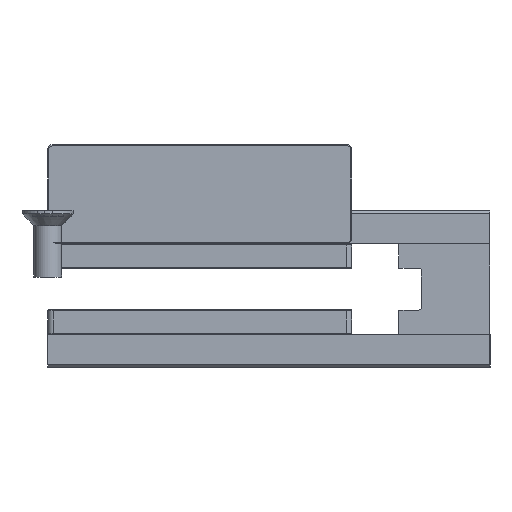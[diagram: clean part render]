
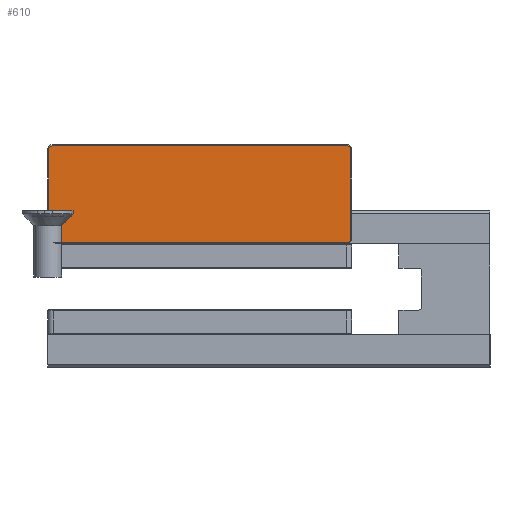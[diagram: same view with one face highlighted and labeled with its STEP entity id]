
A CAD part, front view. The second image highlights one B-rep face of the part: STEP entity #610.
In plain terms, the highlighted planar face has unit normal (0, -1, 0).
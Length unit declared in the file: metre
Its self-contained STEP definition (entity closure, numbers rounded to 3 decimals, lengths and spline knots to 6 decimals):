
#610 = ADVANCED_FACE( '', ( #835 ), #836, .T. );
#835 = FACE_OUTER_BOUND( '', #1570, .T. );
#836 = PLANE( '', #1571 );
#1570 = EDGE_LOOP( '', ( #2310, #2311, #2312, #2313, #2314, #2315, #2316, #2317 ) );
#1571 = AXIS2_PLACEMENT_3D( '', #2318, #2319, #2320 );
#2310 = ORIENTED_EDGE( '', *, *, #3898, .T. );
#2311 = ORIENTED_EDGE( '', *, *, #3899, .T. );
#2312 = ORIENTED_EDGE( '', *, *, #3900, .T. );
#2313 = ORIENTED_EDGE( '', *, *, #3901, .T. );
#2314 = ORIENTED_EDGE( '', *, *, #3902, .T. );
#2315 = ORIENTED_EDGE( '', *, *, #3903, .T. );
#2316 = ORIENTED_EDGE( '', *, *, #3904, .T. );
#2317 = ORIENTED_EDGE( '', *, *, #3905, .T. );
#2318 = CARTESIAN_POINT( '', ( 0.001, 0., 0.001 ) );
#2319 = DIRECTION( '', ( 0., -1., 0. ) );
#2320 = DIRECTION( '', ( 0., 0., -1. ) );
#3898 = EDGE_CURVE( '', #4363, #4364, #4365, .T. );
#3899 = EDGE_CURVE( '', #4364, #4366, #4367, .T. );
#3900 = EDGE_CURVE( '', #4366, #4368, #4369, .T. );
#3901 = EDGE_CURVE( '', #4368, #4370, #4371, .T. );
#3902 = EDGE_CURVE( '', #4370, #4372, #4373, .T. );
#3903 = EDGE_CURVE( '', #4372, #4374, #4375, .T. );
#3904 = EDGE_CURVE( '', #4374, #4376, #4377, .T. );
#3905 = EDGE_CURVE( '', #4376, #4363, #4378, .T. );
#4363 = VERTEX_POINT( '', #5197 );
#4364 = VERTEX_POINT( '', #5198 );
#4365 = CIRCLE( '', #5199, 0.0008 );
#4366 = VERTEX_POINT( '', #5200 );
#4367 = LINE( '', #5201, #5202 );
#4368 = VERTEX_POINT( '', #5203 );
#4369 = CIRCLE( '', #5204, 0.0008 );
#4370 = VERTEX_POINT( '', #5205 );
#4371 = LINE( '', #5206, #5207 );
#4372 = VERTEX_POINT( '', #5208 );
#4373 = CIRCLE( '', #5209, 0.0008 );
#4374 = VERTEX_POINT( '', #5210 );
#4375 = LINE( '', #5211, #5212 );
#4376 = VERTEX_POINT( '', #5213 );
#4377 = CIRCLE( '', #5214, 0.0008 );
#4378 = LINE( '', #5215, #5216 );
#5197 = CARTESIAN_POINT( '', ( 0.0548, 0., 0.017 ) );
#5198 = CARTESIAN_POINT( '', ( 0.054, 0., 0.0178 ) );
#5199 = AXIS2_PLACEMENT_3D( '', #6351, #6352, #6353 );
#5200 = CARTESIAN_POINT( '', ( 0.001, 0., 0.0178 ) );
#5201 = CARTESIAN_POINT( '', ( 0.001, 0., 0.0178 ) );
#5202 = VECTOR( '', #6354, 1. );
#5203 = CARTESIAN_POINT( '', ( 0.0002, 0., 0.017 ) );
#5204 = AXIS2_PLACEMENT_3D( '', #6355, #6356, #6357 );
#5205 = CARTESIAN_POINT( '', ( 0.0002, 0., 0.001 ) );
#5206 = CARTESIAN_POINT( '', ( 0.0002, 0., 0.001 ) );
#5207 = VECTOR( '', #6358, 1. );
#5208 = CARTESIAN_POINT( '', ( 0.001, 0., 0.0002 ) );
#5209 = AXIS2_PLACEMENT_3D( '', #6359, #6360, #6361 );
#5210 = CARTESIAN_POINT( '', ( 0.054, 0., 0.0002 ) );
#5211 = CARTESIAN_POINT( '', ( 0.001, 0., 0.0002 ) );
#5212 = VECTOR( '', #6362, 1. );
#5213 = CARTESIAN_POINT( '', ( 0.0548, 0., 0.001 ) );
#5214 = AXIS2_PLACEMENT_3D( '', #6363, #6364, #6365 );
#5215 = CARTESIAN_POINT( '', ( 0.0548, 0., 0.001 ) );
#5216 = VECTOR( '', #6366, 1. );
#6351 = CARTESIAN_POINT( '', ( 0.054, 0., 0.017 ) );
#6352 = DIRECTION( '', ( 0., -1., 0. ) );
#6353 = DIRECTION( '', ( 0., 0., -1. ) );
#6354 = DIRECTION( '', ( -1., 0., 0. ) );
#6355 = CARTESIAN_POINT( '', ( 0.001, 0., 0.017 ) );
#6356 = DIRECTION( '', ( 0., -1., 0. ) );
#6357 = DIRECTION( '', ( 0., 0., -1. ) );
#6358 = DIRECTION( '', ( 0., 0., -1. ) );
#6359 = CARTESIAN_POINT( '', ( 0.001, 0., 0.001 ) );
#6360 = DIRECTION( '', ( 0., -1., 0. ) );
#6361 = DIRECTION( '', ( 0., 0., -1. ) );
#6362 = DIRECTION( '', ( 1., 0., 0. ) );
#6363 = CARTESIAN_POINT( '', ( 0.054, 0., 0.001 ) );
#6364 = DIRECTION( '', ( 0., -1., 0. ) );
#6365 = DIRECTION( '', ( 0., 0., -1. ) );
#6366 = DIRECTION( '', ( 0., 0., 1. ) );
